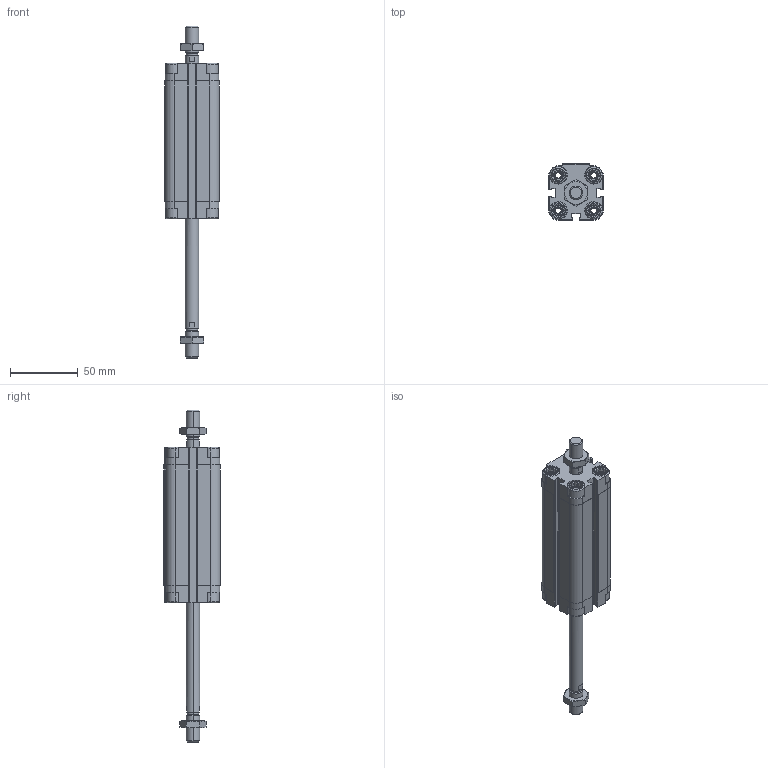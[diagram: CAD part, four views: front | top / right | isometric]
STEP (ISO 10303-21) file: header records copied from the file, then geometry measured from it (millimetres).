
FILE_DESCRIPTION (( 'STEP AP203' ), '1' );
FILE_NAME ('CDVU25-75M-P.STEP', '2020-07-21T15:12:08', ( '' ), ( '' ), 'SwSTEP 2.0', 'SolidWorks 2019', '' );
FILE_SCHEMA (( 'CONFIG_CONTROL_DESIGN' ));
Length unit declared in the file: millimetre
Products named in the file (1): CDVU25-75M-P
Bounding box: 40 x 41.5 x 244.5 mm (x, y, z)
Volume: 130492.2 mm3; surface area: 55990.6 mm2
Topology: 4 solids, 4 shells, 632 faces, 1650 edges, 1062 vertices
Faces by surface type: plane 372, cylinder 180, cone 64, torus 16
Entity records: 20069 total; most frequent: CARTESIAN_POINT 4485, ORIENTED_EDGE 3292, DIRECTION 3152, EDGE_CURVE 1646, AXIS2_PLACEMENT_3D 1089, VERTEX_POINT 1062, VECTOR 974, LINE 974
